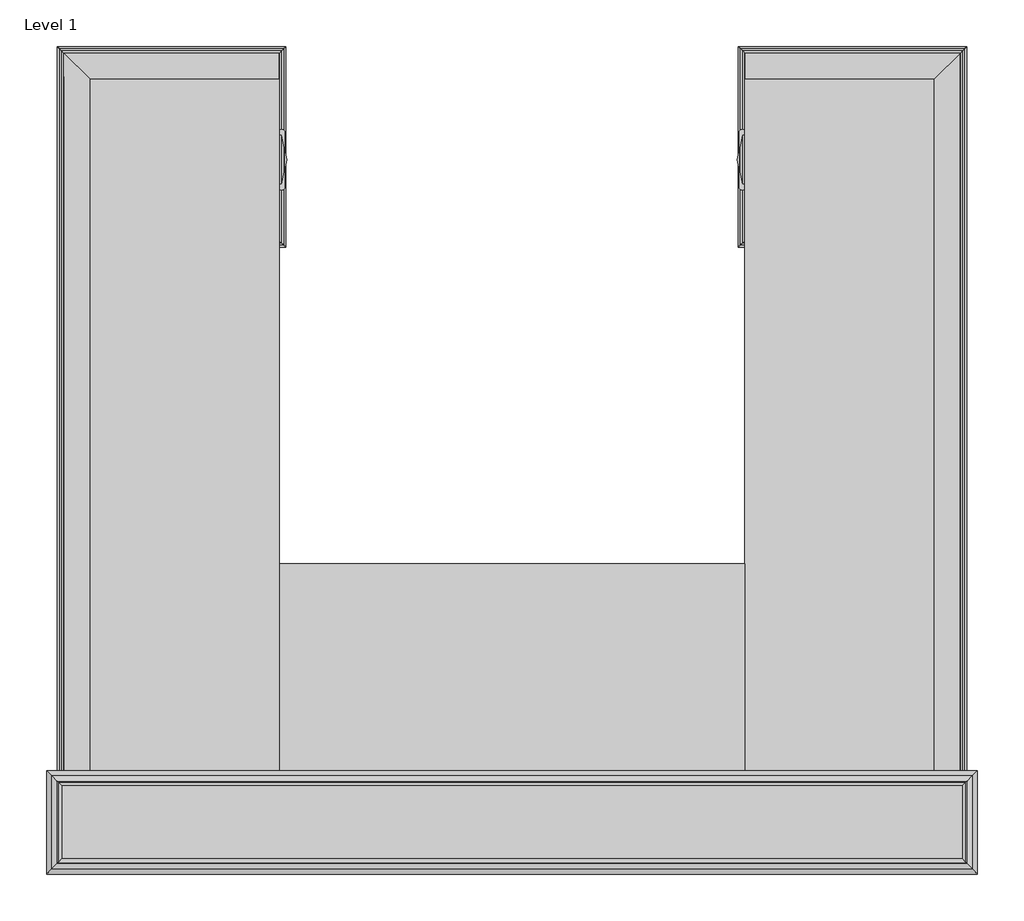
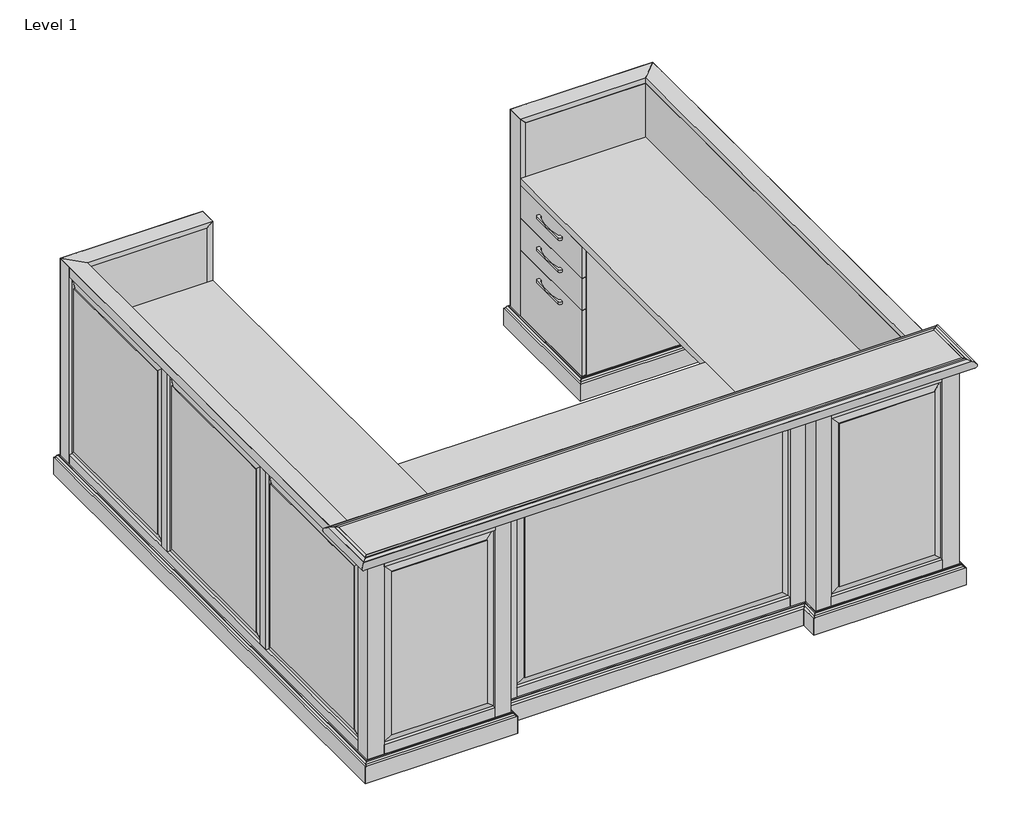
# One storey: 7 proxies.
"""IFC4 building model written with IfcOpenShell, lengths in millimetres."""

from ifc_helpers import new_model, si_unit, origin, place, context, project, spatial, transform, mapped, element, save
from components import generic_models_5fe2147b, generic_models_92315624, generic_models_a3993f4f

model = new_model("IFC4")

# Units and contexts
model_context = context("Model", 3, world=origin())
ifc_project = project(units=[si_unit("LENGTHUNIT", "METRE", prefix="MILLI")], contexts=[model_context])

# Site, building, storey
site = spatial("IfcSite", under=ifc_project)
building = spatial("IfcBuilding", under=site)
storey = spatial("IfcBuildingStorey", under=building, Name="Level 1", Elevation=0.0)

# Proxies
placement = place(None, origin())
generic_models_shape = generic_models_5fe2147b(model_context)
element("IfcBuildingElementProxy", 1, Name="ART DECCO^GLAM-HAFELE 110_34_286", ObjectType="ART DECCO^GLAM-HAFELE 110_34_286", at=placement, inside=storey, context=model_context, shape_type="MappedRepresentation", body=[
    mapped(generic_models_shape, transform((635.0, -404.325, 664.01875), x_axis=(0.0, 1.0, 0.0), y_axis=(0.0, 0.0, -1.0), z_axis=(-1.0, 0.0, 0.0))),
])
element("IfcBuildingElementProxy", 2, Name="ART DECCO^GLAM-HAFELE 110_34_286", ObjectType="ART DECCO^GLAM-HAFELE 110_34_286", at=placement, inside=storey, context=model_context, shape_type="MappedRepresentation", body=[
    mapped(generic_models_shape, transform((635.0, -404.325, 361.6), x_axis=(0.0, 1.0, 0.0), y_axis=(0.0, 0.0, -1.0), z_axis=(-1.0, 0.0, 0.0))),
])
element("IfcBuildingElementProxy", 3, Name="ART DECCO^GLAM-HAFELE 110_34_286", ObjectType="ART DECCO^GLAM-HAFELE 110_34_286", at=placement, inside=storey, context=model_context, shape_type="MappedRepresentation", body=[
    mapped(generic_models_shape, transform((635.0, -404.325, 512.809375), x_axis=(0.0, 1.0, 0.0), y_axis=(0.0, 0.0, -1.0), z_axis=(-1.0, 0.0, 0.0))),
])
element("IfcBuildingElementProxy", 4, Name="ART DECCO^GLAM-HAFELE 110_34_286", ObjectType="ART DECCO^GLAM-HAFELE 110_34_286", at=placement, inside=storey, context=model_context, shape_type="MappedRepresentation", body=[
    mapped(generic_models_shape, transform((2006.6, -224.325, 664.01875), x_axis=(0.0, -1.0, 0.0), y_axis=(0.0, 0.0, -1.0), z_axis=(1.0, 0.0, 0.0))),
])
element("IfcBuildingElementProxy", 5, Name="ART DECCO^GLAM-HAFELE 110_34_286", ObjectType="ART DECCO^GLAM-HAFELE 110_34_286", at=placement, inside=storey, context=model_context, shape_type="MappedRepresentation", body=[
    mapped(generic_models_shape, transform((2006.6, -224.325, 512.809375), x_axis=(0.0, -1.0, 0.0), y_axis=(0.0, 0.0, -1.0), z_axis=(1.0, 0.0, 0.0))),
])
element("IfcBuildingElementProxy", 6, Name="ART DECCO^GLAM-HAFELE 110_34_286", ObjectType="ART DECCO^GLAM-HAFELE 110_34_286", at=placement, inside=storey, context=model_context, shape_type="MappedRepresentation", body=[
    mapped(generic_models_shape, transform((2006.6, -224.325, 361.6), x_axis=(0.0, -1.0, 0.0), y_axis=(0.0, 0.0, -1.0), z_axis=(1.0, 0.0, 0.0))),
])
generic_models_2_shape = generic_models_92315624(model_context)
generic_models_3_shape = generic_models_a3993f4f(model_context)
element("IfcBuildingElementProxy", 7, Name="CAMBRIDGE^ADMIN 1_U-SHAPE-PARTS SOLID", ObjectType="CAMBRIDGE^ADMIN 1_U-SHAPE-PARTS SOLID", at=placement, inside=storey, context=model_context, shape_type="MappedRepresentation", body=[
    mapped(generic_models_2_shape, transform((2006.6, -76.2, 996.95), x_axis=(1.0, 0.0, 0.0), y_axis=(0.0, 0.0, 1.0), z_axis=(0.0, -1.0, 0.0))),
    mapped(generic_models_3_shape, transform((2006.6, -76.2, 996.95), x_axis=(1.0, 0.0, 0.0), y_axis=(0.0, 0.0, 1.0), z_axis=(0.0, -1.0, 0.0))),
])

save(model, "model.ifc")
